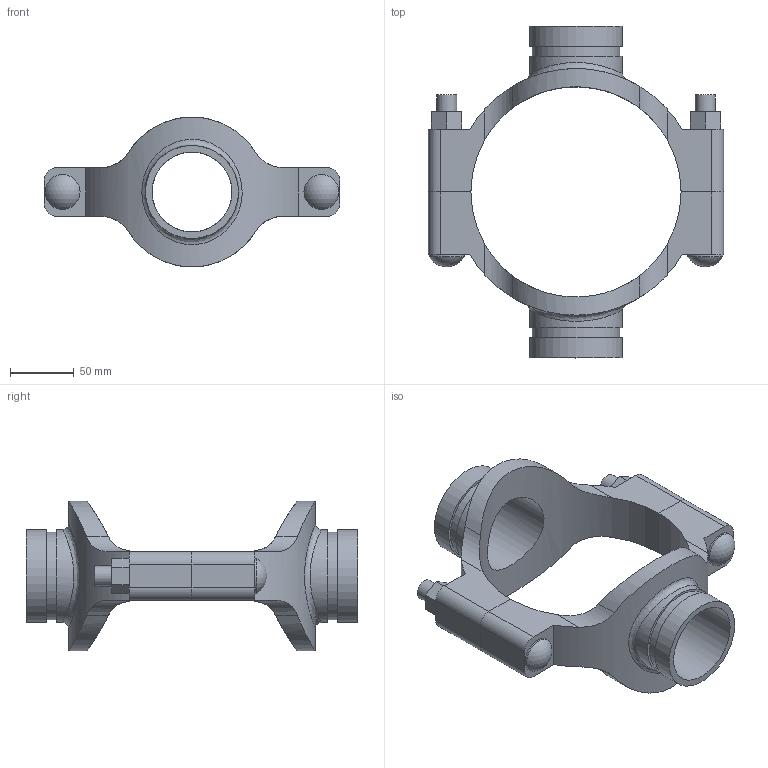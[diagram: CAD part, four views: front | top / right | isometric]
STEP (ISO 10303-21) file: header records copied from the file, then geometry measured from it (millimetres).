
FILE_DESCRIPTION(/* description */ ('VIC MECH-T BRANCH OUTLET CROSS STYLE 920N (GRVD)','CAx-IF Rec.Pracs.---Representation and Presentation of Product Manufacturing Information (PMI)---4.0---2014-10-13'),/* implementation_level */ '2;1');
FILE_NAME(/* name */ 'C:\Users\Vjadhav\AppData\Roaming\Autodesk\ApplicationPlugins\Back Up\Victaulic_IPS_Mechanical-Cross Outlet_Style 920N (OGS)\Victaulic_IPS_Mechanical-Cross Outlet_06.0 (165.1)x02.5x02.5 (150x65x65).stp',/* time_stamp */ '2020-08-06T19:45:31+05:00',/* author */ ('Vjadhav'),/* organization */ ('Victaulic'),/* preprocessor_version */ 'ST-DEVELOPER v17.2',/* originating_system */ 'Autodesk Inventor 2019',/* authorisation */ '');
FILE_SCHEMA (('AP242_MANAGED_MODEL_BASED_3D_ENGINEERING_MIM_LF { 1 0 10303 442 1 1 4 }'));
Length unit declared in the file: inch
Products named in the file (3): 920NG-06.0 (165.1)x02.5x02.5; 920G-06.0 (165.1)x02.5; 920G-06.0 (165.1)x02.5_1
Assembly tree (2 placements, depth 2):
  920NG-06.0 (165.1)x02.5x02.5
    920G-06.0 (165.1)x02.5
    920G-06.0 (165.1)x02.5_1
Bounding box: 231.9 x 260.6 x 117.6 mm (x, y, z)
Volume: 659929.7 mm3; surface area: 158278.7 mm2
Topology: 2 solids, 2 shells, 104 faces, 262 edges, 178 vertices
Faces by surface type: plane 54, cylinder 46, sphere 2, bspline 2
Full cylindrical faces by diameter (mm): 15.875 x4, 27.381 x2, 62.713 x2, 69.088 x2, 73.025 x4
Entity records: 4286 total; most frequent: CARTESIAN_POINT 1513, DIRECTION 532, ORIENTED_EDGE 524, EDGE_CURVE 262, AXIS2_PLACEMENT_3D 193, VERTEX_POINT 178, LINE 146, VECTOR 146
